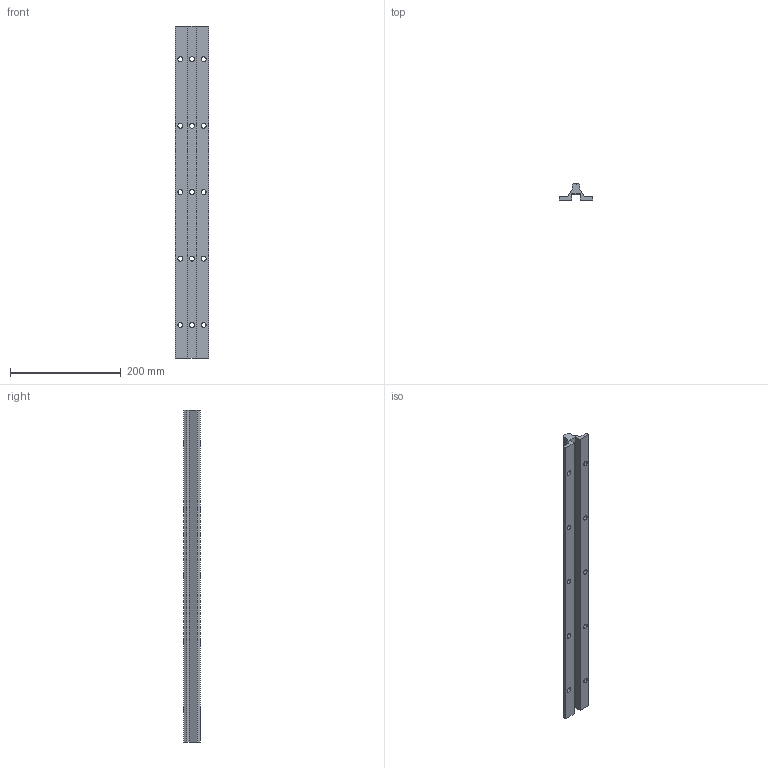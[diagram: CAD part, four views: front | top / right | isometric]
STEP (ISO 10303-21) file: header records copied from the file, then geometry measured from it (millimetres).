
FILE_DESCRIPTION (( 'STEP AP203' ), '1' );
FILE_NAME ('KWS50-25 T1-T2.step', '2020-03-23T07:52:42', ( '' ), ( '' ), 'SwSTEP 2.0', 'SolidWorks 2019', '' );
FILE_SCHEMA (( 'CONFIG_CONTROL_DESIGN' ));
Length unit declared in the file: millimetre
Products named in the file (2): KWS50-25 T1-T2
Bounding box: 60 x 30.32 x 599.5 mm (x, y, z)
Volume: 361587.7 mm3; surface area: 116591.6 mm2
Topology: 1 solids, 1 shells, 49 faces, 146 edges, 94 vertices
Faces by surface type: cylinder 30, plane 19
Entity records: 1865 total; most frequent: CARTESIAN_POINT 321, ORIENTED_EDGE 292, DIRECTION 288, EDGE_CURVE 146, AXIS2_PLACEMENT_3D 101, VERTEX_POINT 94, LINE 86, VECTOR 86
